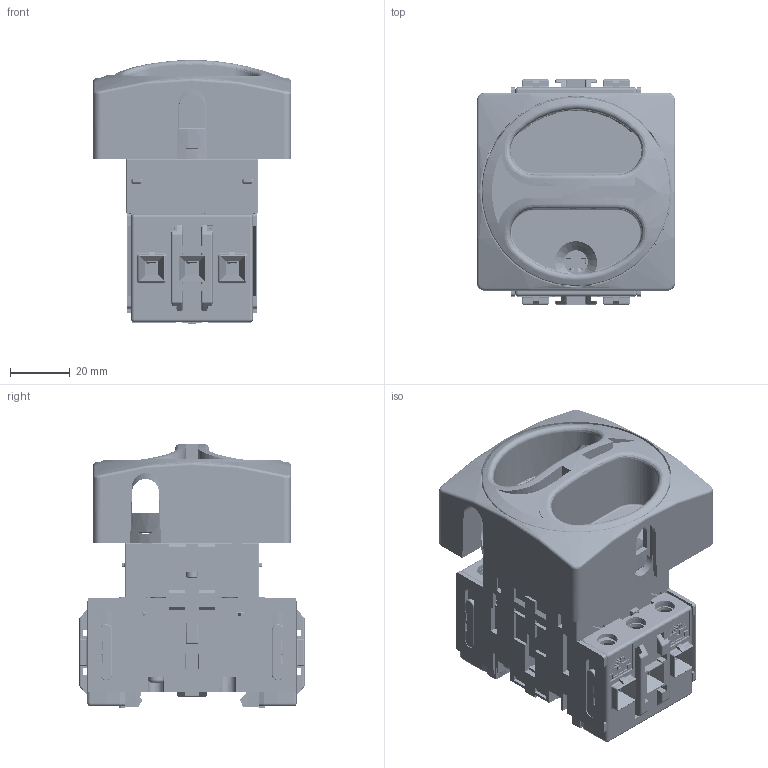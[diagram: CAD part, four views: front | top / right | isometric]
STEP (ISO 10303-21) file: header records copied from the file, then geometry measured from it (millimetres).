
FILE_DESCRIPTION(('CATIA V5 STEP Exchange'),'2;1');
FILE_NAME('\\datfrlgs003.limousin.fr.grpleg.com\it_referentiel\transcad\sortie\fabien.fantini@legrand.fr\159\0172001.stp','2013-05-22T14:25:28+00:00',('none'),('none'),'CATIA Version 5 Release 19 SP 9 (IN-10)','CATIA V5 STEP AP214','none');
FILE_SCHEMA(('AUTOMOTIVE_DESIGN { 1 0 10303 214 1 1 1 1 }'));
Products named in the file (24): 0172001; S01730301; S01730160; S01730110; S01730090; S01730321; S01730311; S01730360; S01730140; S01730100; S01730260; S01730080; S01730070; S06005350; S01730330; S01730350; S01730440essai; S01730130L1; S01752800L1; S91962040; S91564150; S01737000; S01737300; S01751480
Assembly tree (61 placements, depth 3):
  0172001
    S01730301
    S01730160  x6
      S01730110
      S01730090
    S01730321
    S01730311
    S01730360
    S01730140  x3
      S01730100
      S01730090
    S01730260  x2
    S01730080  x6
    S01730070  x12
    S06005350  x2
    S01730330  x2
    S01730350  x4
    S01730440essai
    S01730130L1  x3
    S01752800L1  x4
    S91962040  x2
    S91564150  x2
    S01737000
    S01737300
    S01751480
Bounding box: 66 x 75.15 x 88.11 mm (x, y, z)
Volume: 146813.6 mm3; surface area: 142548.5 mm2
Topology: 80 solids, 80 shells, 7871 faces, 21099 edges, 13172 vertices
Faces by surface type: plane 4071, cylinder 2147, torus 589, bspline 417, cone 324, sphere 307, extrusion 16
Entity records: 180004 total; most frequent: CARTESIAN_POINT 45739, ORIENTED_EDGE 25690, DIRECTION 17614, EDGE_CURVE 12845, VERTEX_POINT 8115, VECTOR 7802, LINE 7794, AXIS2_PLACEMENT_3D 6651
